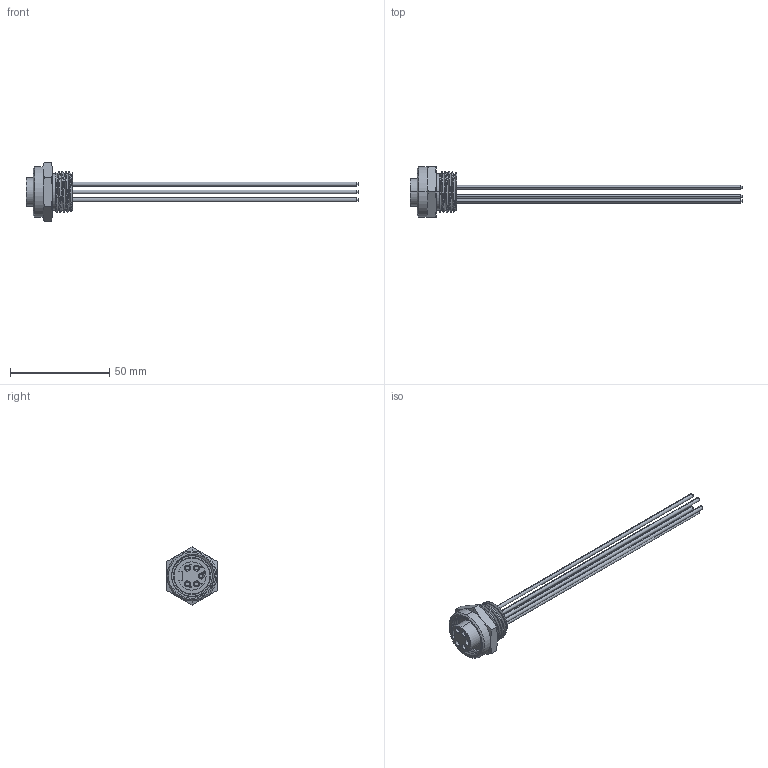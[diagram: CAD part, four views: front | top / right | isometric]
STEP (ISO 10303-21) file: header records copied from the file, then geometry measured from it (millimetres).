
FILE_DESCRIPTION (( 'STEP AP214' ), '1' );
FILE_NAME ('MINE-5FR-ZZ-18.STEP', '2006-12-05T16:57:25', ( 'Bruce Mistarz' ), ( 'Mencom Corp' ), 'SwSTEP 2.0', 'SolidWorks 2006104', '' );
FILE_SCHEMA (( 'AUTOMOTIVE_DESIGN' ));
Length unit declared in the file: inch
Products named in the file (1): MINE-5FR-ZZ-18
Bounding box: 167.56 x 25.4 x 29.33 mm (x, y, z)
Surface area: 8697 mm2 (no closed solid volume)
Topology: 0 solids, 10 shells, 125 faces, 404 edges, 293 vertices
Faces by surface type: cylinder 46, plane 36, cone 29, bspline 14
Entity records: 11990 total; most frequent: CARTESIAN_POINT 7044, ORIENTED_EDGE 655, DIRECTION 614, EDGE_CURVE 404, VERTEX_POINT 293, AXIS2_PLACEMENT_3D 221, VECTOR 172, LINE 172
